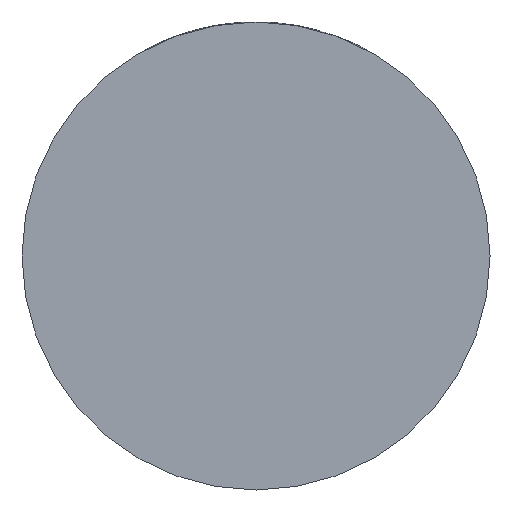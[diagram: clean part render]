
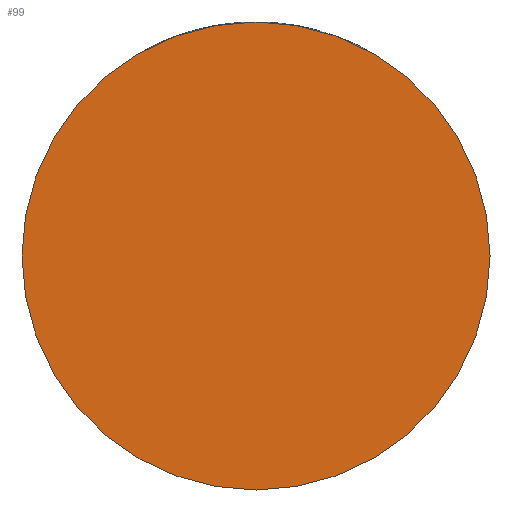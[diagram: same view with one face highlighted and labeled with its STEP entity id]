
A CAD part, front view. The second image highlights one B-rep face of the part: STEP entity #99.
In plain terms, the highlighted planar face has unit normal (0, -1, 0).
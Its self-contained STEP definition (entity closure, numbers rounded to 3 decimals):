
#69 = VERTEX_POINT ( 'NONE', #3671 ) ;
#99 = ADVANCED_FACE ( 'NONE', ( #520 ), #3942, .T. ) ;
#166 = VERTEX_POINT ( 'NONE', #428 ) ;
#428 = CARTESIAN_POINT ( 'NONE',  ( 39., -39., 0. ) ) ;
#520 = FACE_OUTER_BOUND ( 'NONE', #1184, .T. ) ;
#611 = AXIS2_PLACEMENT_3D ( 'NONE', #2329, #4083, #4444 ) ;
#782 = EDGE_CURVE ( 'NONE', #166, #69, #979, .T. ) ;
#840 = CARTESIAN_POINT ( 'NONE',  ( 0., -39., 0. ) ) ;
#979 = CIRCLE ( 'NONE', #611, 39. ) ;
#1096 = EDGE_CURVE ( 'NONE', #69, #166, #1427, .T. ) ;
#1174 = AXIS2_PLACEMENT_3D ( 'NONE', #840, #2193, #1189 ) ;
#1184 = EDGE_LOOP ( 'NONE', ( #1471, #3912 ) ) ;
#1189 = DIRECTION ( 'NONE',  ( 1., 0., 0. ) ) ;
#1265 = DIRECTION ( 'NONE',  ( 1., 0., 0. ) ) ;
#1427 = CIRCLE ( 'NONE', #2436, 39. ) ;
#1471 = ORIENTED_EDGE ( 'NONE', *, *, #1096, .T. ) ;
#2193 = DIRECTION ( 'NONE',  ( 0., -1., 0. ) ) ;
#2329 = CARTESIAN_POINT ( 'NONE',  ( 0., -39., 0. ) ) ;
#2436 = AXIS2_PLACEMENT_3D ( 'NONE', #2633, #2958, #1265 ) ;
#2633 = CARTESIAN_POINT ( 'NONE',  ( 0., -39., 0. ) ) ;
#2958 = DIRECTION ( 'NONE',  ( 0., -1., 0. ) ) ;
#3671 = CARTESIAN_POINT ( 'NONE',  ( -39., -39., 0. ) ) ;
#3912 = ORIENTED_EDGE ( 'NONE', *, *, #782, .T. ) ;
#3942 = PLANE ( 'NONE',  #1174 ) ;
#4083 = DIRECTION ( 'NONE',  ( 0., -1., 0. ) ) ;
#4444 = DIRECTION ( 'NONE',  ( 1., 0., 0. ) ) ;
